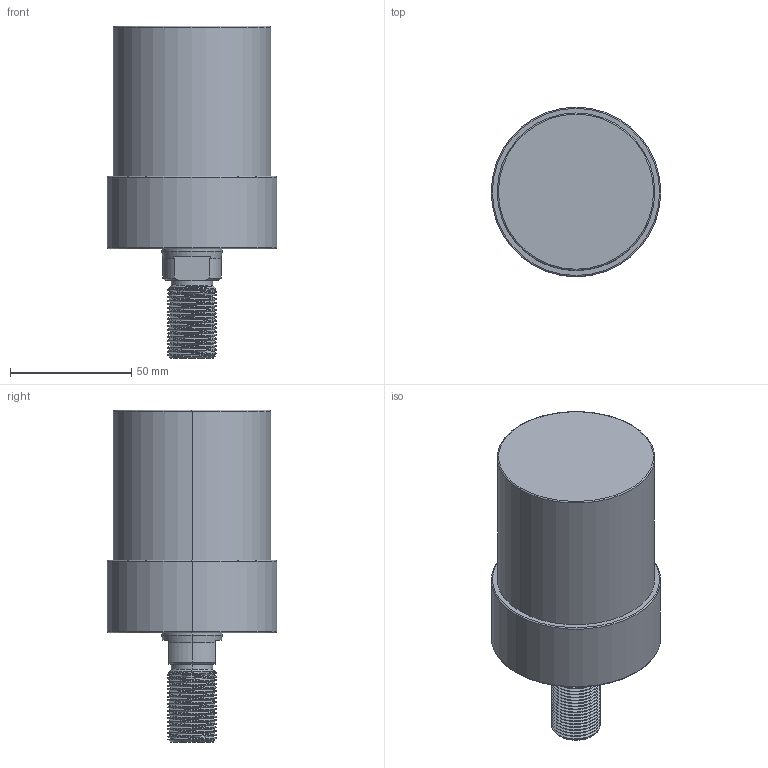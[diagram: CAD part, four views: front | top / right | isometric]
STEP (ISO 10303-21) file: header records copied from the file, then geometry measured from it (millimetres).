
FILE_DESCRIPTION (( 'STEP AP203' ), '1' );
FILE_NAME ('CLLU-065GT-045.STEP', '2020-01-16T01:13:28', ( '' ), ( '' ), 'SwSTEP 2.0', 'SolidWorks 2015', '' );
FILE_SCHEMA (( 'CONFIG_CONTROL_DESIGN' ));
Length unit declared in the file: millimetre
Products named in the file (1): CLLU-065GT-045
Bounding box: 70 x 70 x 137 mm (x, y, z)
Volume: 334099.9 mm3; surface area: 32185.2 mm2
Topology: 1 solids, 1 shells, 107 faces, 270 edges, 166 vertices
Faces by surface type: cylinder 61, cone 26, plane 12, torus 6, bspline 2
Entity records: 5340 total; most frequent: CARTESIAN_POINT 2939, ORIENTED_EDGE 524, DIRECTION 461, EDGE_CURVE 262, AXIS2_PLACEMENT_3D 184, VERTEX_POINT 166, EDGE_LOOP 116, ADVANCED_FACE 107
